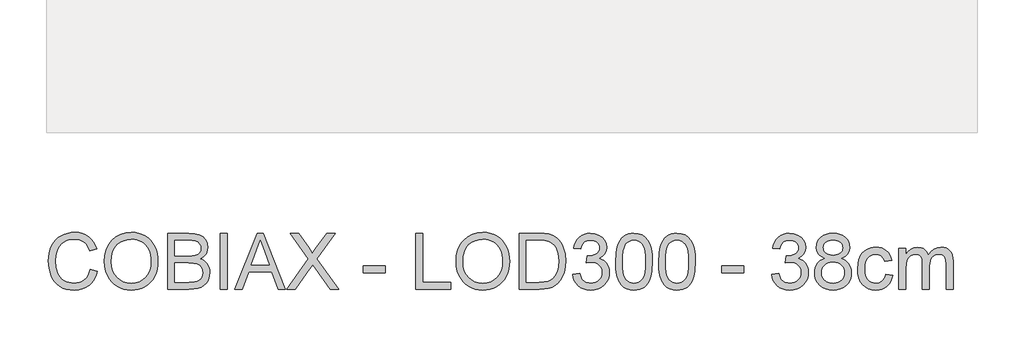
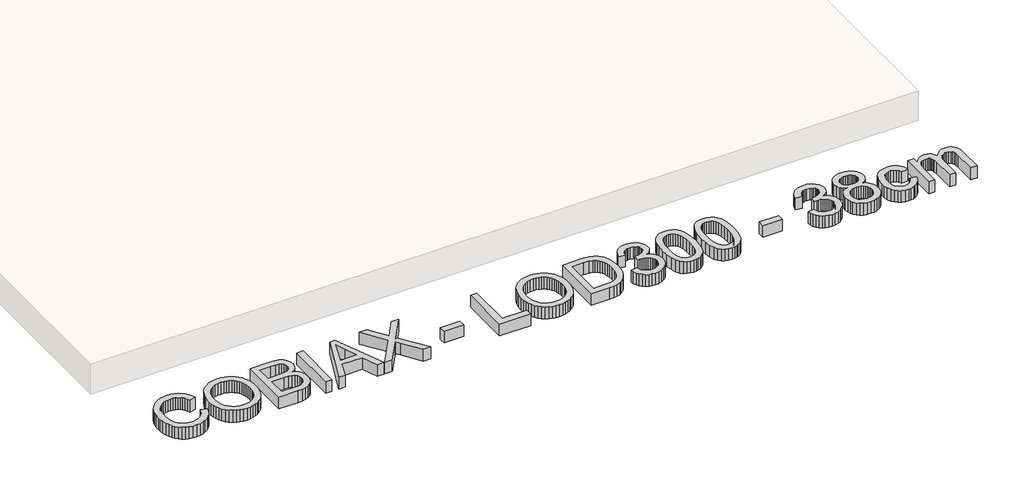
# One storey, part 11 of 18: 1 proxy.
"""IFC4 building model written with IfcOpenShell, lengths in millimetres."""

from ifc_helpers import new_model, si_unit, origin, origin_with_axes, place, context, project, spatial, polyline, outline, extrude, element, save

model = new_model("IFC4")

# Units and contexts
model_context = context("Model", 3, world=origin())
ifc_project = project(units=[si_unit("LENGTHUNIT", "METRE", prefix="MILLI")], contexts=[model_context])

# Site, building, storey
site = spatial("IfcSite", under=ifc_project)
building = spatial("IfcBuilding", under=site)
storey = spatial("IfcBuildingStorey", under=building, Name="COBIAX Slabs", Elevation=0.0)

# Proxy
placement = place(None, origin())
element("IfcBuildingElementProxy", 1, Name="600mm Arial", ObjectType="600mm Arial", at=placement, inside=storey, context=model_context, shape_type="SweptSolid", body=[
    extrude(outline(polyline([(9798.2153953, -22620.9127725), (9873.5576279, -22640.3369419), (9858.64921, -22687.1913125), (9838.7927794, -22728.13198), (9813.9883358, -22763.1589445), (9784.2358795, -22792.2722059), (9750.2067949, -22815.1590645), (9712.5724668, -22831.5068207), (9671.3328952, -22841.3154744), (9626.4880799, -22844.5850256), (9580.5442173, -22842.1110192), (9539.097712, -22834.6889999), (9502.1485641, -22822.3189678), (9469.6967736, -22805.0009229), (9441.2962836, -22782.9923826), (9416.5010371, -22756.5508642), (9395.3110342, -22725.6763677), (9377.7262748, -22690.3688932), (9363.9169044, -22652.155151), (9354.0530684, -22612.5618512), (9348.1347668, -22571.588994), (9346.1619996, -22529.2365793), (9348.3922842, -22483.7939559), (9355.083138, -22441.3495707), (9366.234561, -22401.9034238), (9381.8465531, -22365.4555151), (9401.5696266, -22332.6082514), (9425.0542935, -22303.9640396), (9452.3005538, -22279.5228795), (9483.3084074, -22259.2847713), (9517.0247923, -22243.4152617), (9552.3966461, -22232.0798977), (9589.4239689, -22225.2786793), (9628.1067607, -22223.0116065), (9671.1995379, -22225.9454655), (9710.7146627, -22234.7470422), (9746.6521351, -22249.4163368), (9779.0119551, -22269.9533491), (9807.2606938, -22295.8154534), (9830.8649224, -22326.4600236), (9849.8246407, -22361.8870597), (9864.1398488, -22402.0965618), (9788.7976162, -22420.0492032), (9776.9334219, -22390.420907), (9762.6779946, -22365.1060272), (9746.0313343, -22344.1045638), (9726.993441, -22327.4165168), (9705.4539502, -22314.7015953), (9681.3024972, -22305.6195086), (9654.5390821, -22300.1702565), (9625.1637048, -22298.3538392), (9591.3645465, -22300.3679931), (9560.4532618, -22306.4104549), (9532.4298508, -22316.4812245), (9507.2943135, -22330.5803019), (9485.3639481, -22348.0730908), (9466.9560527, -22368.3249946), (9452.0706275, -22391.3360134), (9440.7076724, -22417.1061472), (9426.3050923, -22472.2516583), (9421.5042322, -22529.0894265), (9427.1880091, -22598.6927), (9434.2927301, -22629.9626696), (9444.2393395, -22658.8781944), (9457.1887858, -22684.8644589), (9473.3020171, -22707.3466473), (9492.5790337, -22726.3247597), (9515.0198354, -22741.7987961), (9539.5345719, -22753.8055448), (9565.0333926, -22762.3817938), (9591.5162978, -22767.5275432), (9618.9832872, -22769.242793), (9651.7385804, -22766.9067423), (9681.8727143, -22759.8985903), (9709.385689, -22748.218337), (9734.2775045, -22731.8659823), (9755.9595496, -22710.9151027), (9773.8432131, -22685.4392745), (9787.928495, -22655.4384978), (9798.2153953, -22620.9127725)])), origin_with_axes(), (0.0, 0.0, 1.0), 150.0),
    extrude(outline(polyline([(9948.8998605, -22541.7445672), (9953.9214497, -22471.0468447), (9968.9862175, -22408.4609203), (9994.0941636, -22353.9867939), (10010.4143286, -22329.7916549), (10029.2452883, -22307.6244654), (10072.3334669, -22270.6063397), (10121.2525753, -22244.1648213), (10176.0026132, -22228.2999102), (10236.5835807, -22223.0116065), (10277.1333737, -22225.49481), (10315.6414215, -22232.9444204), (10352.1077243, -22245.3604378), (10386.532282, -22262.742862), (10417.9494044, -22284.5674614), (10445.3934012, -22310.310004), (10468.8642725, -22339.9704899), (10488.3620182, -22373.548919), (10503.6843033, -22410.2819362), (10514.6287927, -22449.4061864), (10521.1954863, -22490.9216695), (10523.3843842, -22534.8283857), (10521.0805232, -22579.3145159), (10514.1689402, -22621.3910191), (10502.6496352, -22661.0578953), (10486.5226083, -22698.3151443), (10466.1695369, -22732.178682), (10441.9720986, -22761.6644239), (10413.9302936, -22786.7723701), (10382.0441216, -22807.5025205), (10347.5689802, -22823.7261165), (10311.7602665, -22835.3143993), (10274.6179805, -22842.267369), (10236.1421223, -22844.5850256), (10194.8841566, -22842.0236472), (10155.870271, -22834.339512), (10119.1004656, -22821.5326201), (10084.5747403, -22803.6029713), (10053.1944061, -22781.2449431), (10025.8607739, -22755.1529126), (10002.5738436, -22725.3268798), (9983.3336153, -22691.7668448), (9968.2688476, -22655.8201753), (9957.5082992, -22618.8342393), (9951.0519702, -22580.8090365), (9948.8998605, -22541.7445672)]), holes=[polyline([(10024.2420931, -22542.4803312), (10028.0082851, -22592.4295091), (10039.3068608, -22636.7684865), (10058.1378205, -22675.4972636), (10084.5011639, -22708.6158402), (10116.5482842, -22735.140132), (10152.4305743, -22754.0860548), (10192.1480343, -22765.4536084), (10235.700664, -22769.242793), (10279.9982547, -22765.4168202), (10320.1847641, -22753.938902), (10356.2601923, -22734.8090382), (10388.2245392, -22708.027229), (10414.3947446, -22674.2096766), (10433.0877485, -22633.9725834), (10444.3035508, -22587.3159493), (10448.0421516, -22534.2397745), (10446.4418649, -22499.7600345), (10441.6410049, -22467.5427687), (10433.6395715, -22437.5879773), (10422.4375647, -22409.8956601), (10408.1591448, -22384.8291007), (10390.9284718, -22362.7515824), (10370.7455459, -22343.6631054), (10347.6103669, -22327.5636696), (10322.2403048, -22314.7843688), (10295.3527295, -22305.6562968), (10266.9476409, -22300.1794536), (10237.0250391, -22298.3538392), (10194.9853241, -22301.8717107), (10155.9806356, -22312.4253255), (10120.0109735, -22330.0146834), (10087.0763379, -22354.6397844), (10059.5863558, -22387.4870481), (10039.9506543, -22429.7428937), (10028.1692334, -22481.4073214), (10024.2420931, -22542.4803312)])]), origin_with_axes(), (0.0, 0.0, 1.0), 150.0),
    extrude(outline(polyline([(10626.979954, -22835.1672465), (10626.979954, -22232.4293856), (10856.9797774, -22232.4293856), (10920.2370865, -22236.8623637), (10969.6252443, -22250.1612978), (10989.7024042, -22260.2182718), (11007.4803016, -22272.6572818), (11022.9589366, -22287.4783277), (11036.1383091, -22304.6814095), (11054.1829209, -22342.3525258), (11060.1977915, -22381.7894757), (11055.1394141, -22418.0810345), (11039.9642818, -22452.2020895), (11014.56203, -22482.0557135), (10978.8222942, -22505.5449788), (11001.562, -22515.2386694), (11021.5149998, -22527.8386278), (11038.6812934, -22543.3448538), (11053.0608808, -22561.7573477), (11064.423836, -22582.5150893), (11072.5402325, -22605.0570585), (11077.4100704, -22629.3832555), (11079.0333497, -22655.4936801), (11074.6003717, -22697.524198), (11061.3014375, -22736.5012954), (11041.4542039, -22769.6474632), (11017.3763273, -22794.1851923), (10987.8905854, -22811.9538926), (10951.8197558, -22824.7929743), (10907.986616, -22832.5736785), (10855.2139438, -22835.1672465), (10626.979954, -22835.1672465)]), holes=[polyline([(10702.3221866, -22477.2916416), (10839.9100528, -22477.2916416), (10888.0290178, -22475.6729608), (10920.2554806, -22470.8169185), (10948.3800591, -22459.6516999), (10968.5951747, -22442.9314633), (10980.7904629, -22420.9137259), (10984.8555589, -22393.8560051), (10981.0663744, -22367.5892307), (10969.6988207, -22344.7069706), (10951.2679328, -22326.8462997), (10926.2887453, -22315.6442929), (10887.9554414, -22309.7397869), (10829.4622042, -22307.7716182), (10702.3221866, -22307.7716182), (10702.3221866, -22477.2916416)]), polyline([(10702.3221866, -22759.8250139), (10856.8326246, -22759.8250139), (10912.7506879, -22756.8819579), (10938.7047626, -22750.3520525), (10960.0603125, -22740.474421), (10977.4243426, -22726.3293582), (10991.4038584, -22706.9971594), (11000.6193024, -22683.3423471), (11003.6911171, -22656.2294441), (11000.0858735, -22624.7387453), (10989.2701429, -22597.6626304), (10970.3794024, -22576.4910216), (10942.5491295, -22562.7138409), (10903.1305737, -22555.1538659), (10849.4749847, -22552.6338742), (10702.3221866, -22552.6338742), (10702.3221866, -22759.8250139)])]), origin_with_axes(), (0.0, 0.0, 1.0), 150.0),
    extrude(outline(polyline([(11192.0466986, -22835.1672465), (11192.0466986, -22232.4293856), (11267.3889312, -22232.4293856), (11267.3889312, -22835.1672465), (11192.0466986, -22835.1672465)])), origin_with_axes(), (0.0, 0.0, 1.0), 150.0),
    extrude(outline(polyline([(11347.8815118, -22835.1672465), (11588.4763366, -22232.4293856), (11652.6349566, -22232.4293856), (11893.2297814, -22835.1672465), (11813.6201177, -22835.1672465), (11744.6054554, -22646.811665), (11496.358685, -22646.811665), (11427.4911755, -22835.1672465), (11347.8815118, -22835.1672465)]), holes=[polyline([(11524.0234111, -22571.4694324), (11717.0878821, -22571.4694324), (11662.7884996, -22423.2865647), (11620.5556466, -22307.7716182), (11583.0316831, -22410.3371185), (11524.0234111, -22571.4694324)])]), origin_with_axes(), (0.0, 0.0, 1.0), 150.0),
    extrude(outline(polyline([(11907.7979084, -22835.1672465), (12140.1521766, -22506.7222012), (11945.4690247, -22232.4293856), (12035.8208428, -22232.4293856), (12145.4496773, -22386.7926708), (12171.6060872, -22425.8985269), (12182.3850296, -22446.9781652), (12225.6479523, -22385.7626012), (12334.0995644, -22232.4293856), (12425.7757576, -22232.4293856), (12231.0926058, -22507.605118), (12463.4468739, -22835.1672465), (12373.0950559, -22835.1672465), (12218.2903124, -22616.7924942), (12186.0638496, -22571.4694324), (12150.6000252, -22621.2070781), (11999.4741016, -22835.1672465), (11907.7979084, -22835.1672465)])), origin_with_axes(), (0.0, 0.0, 1.0), 150.0),
    extrude(outline(polyline([(12727.1446881, -22656.2294441), (12727.1446881, -22580.8872115), (12962.589165, -22580.8872115), (12962.589165, -22656.2294441), (12727.1446881, -22656.2294441)])), origin_with_axes(), (0.0, 0.0, 1.0), 150.0),
    extrude(outline(polyline([(13292.2114327, -22835.1672465), (13292.2114327, -22232.4293856), (13367.5536653, -22232.4293856), (13367.5536653, -22759.8250139), (13668.9225957, -22759.8250139), (13668.9225957, -22835.1672465), (13292.2114327, -22835.1672465)])), origin_with_axes(), (0.0, 0.0, 1.0), 150.0),
    extrude(outline(polyline([(13725.4292702, -22541.7445672), (13730.4508594, -22471.0468447), (13745.5156271, -22408.4609203), (13770.6235733, -22353.9867939), (13786.9437383, -22329.7916549), (13805.7746979, -22307.6244654), (13848.8628766, -22270.6063397), (13897.7819849, -22244.1648213), (13952.5320229, -22228.2999102), (14013.1129904, -22223.0116065), (14053.6627833, -22225.49481), (14092.1708312, -22232.9444204), (14128.637134, -22245.3604378), (14163.0616917, -22262.742862), (14194.4788141, -22284.5674614), (14221.9228109, -22310.310004), (14245.3936822, -22339.9704899), (14264.8914279, -22373.548919), (14280.213713, -22410.2819362), (14291.1582024, -22449.4061864), (14297.724896, -22490.9216695), (14299.9137939, -22534.8283857), (14297.6099329, -22579.3145159), (14290.6983499, -22621.3910191), (14279.1790449, -22661.0578953), (14263.052018, -22698.3151443), (14242.6989466, -22732.178682), (14218.5015083, -22761.6644239), (14190.4597033, -22786.7723701), (14158.5735313, -22807.5025205), (14124.0983898, -22823.7261165), (14088.2896761, -22835.3143993), (14051.1473902, -22842.267369), (14012.671532, -22844.5850256), (13971.4135663, -22842.0236472), (13932.3996807, -22834.339512), (13895.6298753, -22821.5326201), (13861.10415, -22803.6029713), (13829.7238158, -22781.2449431), (13802.3901836, -22755.1529126), (13779.1032533, -22725.3268798), (13759.8630249, -22691.7668448), (13744.7982572, -22655.8201753), (13734.0377089, -22618.8342393), (13727.5813799, -22580.8090365), (13725.4292702, -22541.7445672)]), holes=[polyline([(13800.7715028, -22542.4803312), (13804.5376947, -22592.4295091), (13815.8362705, -22636.7684865), (13834.6672301, -22675.4972636), (13861.0305736, -22708.6158402), (13893.0776939, -22735.140132), (13928.959984, -22754.0860548), (13968.6774439, -22765.4536084), (14012.2300736, -22769.242793), (14056.5276644, -22765.4168202), (14096.7141738, -22753.938902), (14132.789602, -22734.8090382), (14164.7539488, -22708.027229), (14190.9241543, -22674.2096766), (14209.6171582, -22633.9725834), (14220.8329605, -22587.3159493), (14224.5715613, -22534.2397745), (14222.9712746, -22499.7600345), (14218.1704145, -22467.5427687), (14210.1689811, -22437.5879773), (14198.9669744, -22409.8956601), (14184.6885545, -22384.8291007), (14167.4578815, -22362.7515824), (14147.2749555, -22343.6631054), (14124.1397766, -22327.5636696), (14098.7697145, -22314.7843688), (14071.8821392, -22305.6562968), (14043.4770506, -22300.1794536), (14013.5544488, -22298.3538392), (13971.5147338, -22301.8717107), (13932.5100453, -22312.4253255), (13896.5403832, -22330.0146834), (13863.6057476, -22354.6397844), (13836.1157655, -22387.4870481), (13816.480064, -22429.7428937), (13804.6986431, -22481.4073214), (13800.7715028, -22542.4803312)])]), origin_with_axes(), (0.0, 0.0, 1.0), 150.0),
    extrude(outline(polyline([(14403.5093637, -22835.1672465), (14403.5093637, -22232.4293856), (14611.4362674, -22232.4293856), (14673.5715364, -22234.5998894), (14719.0049628, -22241.1114007), (14767.0503513, -22257.8500315), (14807.5909472, -22284.2271705), (14829.9305814, -22305.7850555), (14849.2719773, -22330.1388435), (14865.6151349, -22357.2885348), (14878.9600543, -22387.2341292), (14889.3251295, -22419.6997153), (14896.7287546, -22454.4093815), (14902.6516548, -22530.5609545), (14898.641741, -22595.2530034), (14886.6119998, -22652.1827421), (14868.2914764, -22700.651195), (14845.4092163, -22739.9593862), (14819.0688655, -22770.9902325), (14790.3740698, -22794.6266507), (14757.4302372, -22812.1562277), (14718.3427752, -22824.8665507), (14673.0381075, -22832.5920726), (14621.4426577, -22835.1672465), (14403.5093637, -22835.1672465)]), holes=[polyline([(14478.8515963, -22759.8250139), (14612.1720314, -22759.8250139), (14667.3175425, -22757.1026871), (14709.1457253, -22748.9357069), (14740.7100005, -22735.8023196), (14765.0637886, -22718.1807721), (14791.2385925, -22685.5680332), (14810.9018852, -22643.3535742), (14823.2075379, -22591.3534542), (14827.3094222, -22529.3837321), (14825.2998668, -22485.6425629), (14819.2712006, -22447.2724708), (14809.2234236, -22414.2734558), (14795.1565358, -22386.645518), (14778.2109714, -22363.7632579), (14759.5271645, -22345.0012761), (14739.1051153, -22330.3595727), (14716.9448236, -22319.8381477), (14673.6083246, -22310.7882506), (14610.1118922, -22307.7716182), (14478.8515963, -22307.7716182), (14478.8515963, -22759.8250139)])]), origin_with_axes(), (0.0, 0.0, 1.0), 150.0),
    extrude(outline(polyline([(14977.9938874, -22675.0650022), (15053.33612, -22665.6472231), (15070.2035095, -22712.9936359), (15081.5756616, -22730.900292), (15094.9067854, -22744.9625813), (15110.5003835, -22755.5851739), (15128.6599585, -22763.1727401), (15149.3855104, -22767.7252798), (15172.6770392, -22769.242793), (15199.9738833, -22767.1550627), (15224.3276713, -22760.8918717), (15245.7384035, -22750.4532201), (15264.2060796, -22735.8391078), (15279.0777093, -22718.1439839), (15289.7003019, -22698.4622971), (15296.0738575, -22676.7940476), (15298.198376, -22653.1392353), (15296.0922516, -22630.6110616), (15289.7738783, -22610.115436), (15279.2432562, -22591.6523583), (15264.5003852, -22575.2218287), (15246.5109557, -22561.7343551), (15226.2406577, -22552.1004453), (15203.6894914, -22546.3200995), (15178.8574567, -22544.3933175), (15155.0554917, -22546.4534567), (15126.0296022, -22552.6338742), (15134.4173117, -22477.2916416), (15146.4838412, -22478.1745584), (15191.622962, -22472.7666931), (15231.9796168, -22456.5430971), (15248.5894889, -22444.2742325), (15260.4536833, -22429.0991002), (15267.5721999, -22411.0177002), (15269.9450388, -22390.0300324), (15268.2251904, -22372.9924975), (15263.0656454, -22357.4908699), (15254.4664038, -22343.5251496), (15242.4274655, -22331.0953367), (15227.6753975, -22320.8912099), (15210.9367667, -22313.6025479), (15171.4998168, -22307.7716182), (15150.8432428, -22309.2431462), (15131.9892906, -22313.6577302), (15114.9379601, -22321.0153701), (15099.6892514, -22331.3160659), (15086.6202435, -22344.5598178), (15076.1080155, -22360.7466255), (15068.1525673, -22379.8764893), (15062.7538991, -22401.949409), (14987.4116665, -22392.5316299), (14996.3420019, -22356.5619678), (15009.5949508, -22324.878131), (15027.1705131, -22297.4801194), (15049.0686888, -22274.3679331), (15074.5996993, -22256.0198186), (15103.0737657, -22242.9140225), (15134.4908881, -22235.0505448), (15168.8510665, -22232.4293856), (15216.2158734, -22237.5981277), (15259.7179193, -22253.1043538), (15296.3957542, -22277.5685064), (15323.2879281, -22309.6110282), (15339.7874355, -22346.5279864), (15345.2872714, -22385.6154484), (15340.063347, -22422.0357659), (15324.391574, -22455.0715691), (15298.4926816, -22483.2145417), (15262.5873988, -22504.9563677), (15287.695345, -22512.8106482), (15309.7498706, -22524.012655), (15328.7509757, -22538.5623879), (15344.6986602, -22556.459847), (15357.3170126, -22577.2635738), (15366.3301215, -22600.53211), (15371.7379868, -22626.2654556), (15373.5406086, -22654.4636105), (15369.935365, -22692.6865498), (15359.1196344, -22727.8928567), (15341.0934166, -22760.0825313), (15315.8567117, -22789.2555735), (15285.110974, -22813.4622088), (15250.5576576, -22830.7526626), (15212.1967626, -22841.1269348), (15170.0282889, -22844.5850256), (15131.9157142, -22841.6327726), (15097.1876538, -22832.7760136), (15065.8441078, -22818.0147485), (15037.8850762, -22797.3489774), (15014.4417961, -22771.9927109), (14996.6455045, -22743.1599595), (14984.4962016, -22710.8507233), (14977.9938874, -22675.0650022)])), origin_with_axes(), (0.0, 0.0, 1.0), 150.0),
    extrude(outline(polyline([(15439.4650621, -22538.6543584), (15445.0016862, -22442.1773052), (15451.9224662, -22401.2642288), (15461.6115582, -22365.2347859), (15474.0275756, -22333.7946709), (15489.1291315, -22306.6495782), (15506.9162259, -22283.7995077), (15527.388859, -22265.2444596), (15550.6160084, -22250.8878647), (15576.6666522, -22240.6331541), (15605.5407903, -22234.4803277), (15637.2384227, -22232.4293856), (15683.6651305, -22237.285428), (15725.235796, -22251.853555), (15760.0006445, -22275.5635496), (15786.0099016, -22307.8451946), (15805.6548001, -22348.4225787), (15821.3265731, -22397.0197903), (15831.5904808, -22458.731995), (15835.0117833, -22538.6543584), (15829.5303416, -22634.5795887), (15822.6785395, -22675.3547093), (15813.0860164, -22711.3381669), (15800.7665681, -22742.7920775), (15785.7339901, -22769.978557), (15767.9882823, -22792.8976053), (15747.5294449, -22811.5492224), (15724.2747043, -22826.0023863), (15698.141287, -22836.3260748), (15669.1291932, -22842.5202879), (15637.2384227, -22844.5850256), (15595.7413337, -22840.9981761), (15558.9531342, -22830.2376278), (15526.8738242, -22812.3033805), (15499.5034037, -22787.1954344), (15473.2366293, -22741.8079932), (15454.4746475, -22685.2553335), (15443.2174585, -22617.5374552), (15439.4650621, -22538.6543584)]), holes=[polyline([(15514.8072947, -22538.5072056), (15517.0145867, -22604.0039963), (15523.6364626, -22657.0203904), (15534.6729225, -22697.5563877), (15550.1239663, -22725.6119884), (15568.8123716, -22744.7004654), (15589.5609162, -22758.3350918), (15612.3695999, -22766.5158677), (15637.2384227, -22769.242793), (15662.1072456, -22766.5066706), (15684.9159293, -22758.2983036), (15705.6644738, -22744.6176919), (15724.3528792, -22725.4648356), (15739.803923, -22697.3632497), (15750.8403828, -22656.8364494), (15757.4622588, -22603.8844347), (15759.6695507, -22538.5072056), (15757.5358352, -22474.7440588), (15751.1346884, -22422.6611653), (15740.4661106, -22382.2585252), (15725.5301016, -22353.5361384), (15707.1543959, -22333.5141608), (15686.1667281, -22319.2127483), (15662.5670981, -22310.6319007), (15636.3555059, -22307.7716182), (15611.6154418, -22310.2916099), (15589.1930342, -22317.8515849), (15569.0882831, -22330.4515432), (15551.3011887, -22348.0914849), (15535.3351101, -22379.3614545), (15523.9307682, -22421.5207311), (15517.0881631, -22474.5693149), (15514.8072947, -22538.5072056)])]), origin_with_axes(), (0.0, 0.0, 1.0), 150.0),
    extrude(outline(polyline([(15900.9362369, -22538.6543584), (15906.4728609, -22442.1773052), (15913.3936409, -22401.2642288), (15923.082733, -22365.2347859), (15935.4987503, -22333.7946709), (15950.6003062, -22306.6495782), (15968.3874007, -22283.7995077), (15988.8600337, -22265.2444596), (16012.0871832, -22250.8878647), (16038.137827, -22240.6331541), (16067.0119651, -22234.4803277), (16098.7095975, -22232.4293856), (16145.1363053, -22237.285428), (16186.7069707, -22251.853555), (16221.4718193, -22275.5635496), (16247.4810763, -22307.8451946), (16267.1259749, -22348.4225787), (16282.7977479, -22397.0197903), (16293.0616555, -22458.731995), (16296.4829581, -22538.6543584), (16291.0015164, -22634.5795887), (16284.1497142, -22675.3547093), (16274.5571912, -22711.3381669), (16262.2377429, -22742.7920775), (16247.2051648, -22769.978557), (16229.4594571, -22792.8976053), (16209.0006196, -22811.5492224), (16185.745879, -22826.0023863), (16159.6124618, -22836.3260748), (16130.6003679, -22842.5202879), (16098.7095975, -22844.5850256), (16057.2125084, -22840.9981761), (16020.4243089, -22830.2376278), (15988.3449989, -22812.3033805), (15960.9745785, -22787.1954344), (15934.707804, -22741.8079932), (15915.9458223, -22685.2553335), (15904.6886332, -22617.5374552), (15900.9362369, -22538.6543584)]), holes=[polyline([(15976.2784695, -22538.5072056), (15978.4857615, -22604.0039963), (15985.1076374, -22657.0203904), (15996.1440972, -22697.5563877), (16011.595141, -22725.6119884), (16030.2835464, -22744.7004654), (16051.0320909, -22758.3350918), (16073.8407746, -22766.5158677), (16098.7095975, -22769.242793), (16123.5784204, -22766.5066706), (16146.3871041, -22758.2983036), (16167.1356486, -22744.6176919), (16185.8240539, -22725.4648356), (16201.2750977, -22697.3632497), (16212.3115576, -22656.8364494), (16218.9334335, -22603.8844347), (16221.1407255, -22538.5072056), (16219.0070099, -22474.7440588), (16212.6058632, -22422.6611653), (16201.9372853, -22382.2585252), (16187.0012763, -22353.5361384), (16168.6255707, -22333.5141608), (16147.6379028, -22319.2127483), (16124.0382729, -22310.6319007), (16097.8266807, -22307.7716182), (16073.0866165, -22310.2916099), (16050.6642089, -22317.8515849), (16030.5594579, -22330.4515432), (16012.7723634, -22348.0914849), (15996.8062848, -22379.3614545), (15985.401943, -22421.5207311), (15978.5593379, -22474.5693149), (15976.2784695, -22538.5072056)])]), origin_with_axes(), (0.0, 0.0, 1.0), 150.0),
    extrude(outline(polyline([(16579.0163304, -22656.2294441), (16579.0163304, -22580.8872115), (16814.4608073, -22580.8872115), (16814.4608073, -22656.2294441), (16579.0163304, -22656.2294441)])), origin_with_axes(), (0.0, 0.0, 1.0), 150.0),
    extrude(outline(polyline([(17115.8297378, -22675.0650022), (17191.1719704, -22665.6472231), (17208.0393598, -22712.9936359), (17219.411512, -22730.900292), (17232.7426358, -22744.9625813), (17248.3362339, -22755.5851739), (17266.4958089, -22763.1727401), (17287.2213608, -22767.7252798), (17310.5128896, -22769.242793), (17337.8097336, -22767.1550627), (17362.1635217, -22760.8918717), (17383.5742538, -22750.4532201), (17402.04193, -22735.8391078), (17416.9135597, -22718.1439839), (17427.5361523, -22698.4622971), (17433.9097078, -22676.7940476), (17436.0342264, -22653.1392353), (17433.9281019, -22630.6110616), (17427.6097287, -22610.115436), (17417.0791066, -22591.6523583), (17402.3362356, -22575.2218287), (17384.346806, -22561.7343551), (17364.0765081, -22552.1004453), (17341.5253418, -22546.3200995), (17316.6933071, -22544.3933175), (17292.891342, -22546.4534567), (17263.8654526, -22552.6338742), (17272.2531621, -22477.2916416), (17284.3196915, -22478.1745584), (17329.4588123, -22472.7666931), (17369.8154672, -22456.5430971), (17386.4253393, -22444.2742325), (17398.2895336, -22429.0991002), (17405.4080503, -22411.0177002), (17407.7808891, -22390.0300324), (17406.0610408, -22372.9924975), (17400.9014958, -22357.4908699), (17392.3022542, -22343.5251496), (17380.2633159, -22331.0953367), (17365.5112479, -22320.8912099), (17348.7726171, -22313.6025479), (17309.3356672, -22307.7716182), (17288.6790932, -22309.2431462), (17269.8251409, -22313.6577302), (17252.7738105, -22321.0153701), (17237.5251018, -22331.3160659), (17224.4560939, -22344.5598178), (17213.9438659, -22360.7466255), (17205.9884177, -22379.8764893), (17200.5897494, -22401.949409), (17125.2475168, -22392.5316299), (17134.1778523, -22356.5619678), (17147.4308011, -22324.878131), (17165.0063635, -22297.4801194), (17186.9045392, -22274.3679331), (17212.4355497, -22256.0198186), (17240.9096161, -22242.9140225), (17272.3267385, -22235.0505448), (17306.6869168, -22232.4293856), (17354.0517237, -22237.5981277), (17397.5537697, -22253.1043538), (17434.2316046, -22277.5685064), (17461.1237784, -22309.6110282), (17477.6232859, -22346.5279864), (17483.1231217, -22385.6154484), (17477.8991974, -22422.0357659), (17462.2274244, -22455.0715691), (17436.3285319, -22483.2145417), (17400.4232492, -22504.9563677), (17425.5311954, -22512.8106482), (17447.585721, -22524.012655), (17466.5868261, -22538.5623879), (17482.5345105, -22556.459847), (17495.152863, -22577.2635738), (17504.1659719, -22600.53211), (17509.5738372, -22626.2654556), (17511.376459, -22654.4636105), (17507.7712154, -22692.6865498), (17496.9554848, -22727.8928567), (17478.929267, -22760.0825313), (17453.6925621, -22789.2555735), (17422.9468244, -22813.4622088), (17388.393508, -22830.7526626), (17350.0326129, -22841.1269348), (17307.8641392, -22844.5850256), (17269.7515645, -22841.6327726), (17235.0235042, -22832.7760136), (17203.6799582, -22818.0147485), (17175.7209266, -22797.3489774), (17152.2776464, -22771.9927109), (17134.4813549, -22743.1599595), (17122.332052, -22710.8507233), (17115.8297378, -22675.0650022)])), origin_with_axes(), (0.0, 0.0, 1.0), 150.0),
    extrude(outline(polyline([(17687.0768999, -22503.1905341), (17646.7386391, -22483.3249063), (17631.0806617, -22470.7433421), (17618.4301196, -22456.3959443), (17601.7098829, -22422.9554709), (17596.1364707, -22383.5553092), (17599.1714971, -22352.8279656), (17608.2765765, -22324.6574018), (17623.4517088, -22299.0436179), (17644.696894, -22275.9866139), (17670.9912596, -22256.9303265), (17701.3139331, -22243.3186927), (17735.6649144, -22235.1517124), (17774.0442035, -22232.4293856), (17812.6074337, -22235.2160917), (17847.2159324, -22243.5762101), (17877.8696996, -22257.5097406), (17904.5687354, -22277.0166834), (17926.2001967, -22300.5243429), (17941.6512405, -22326.4600236), (17950.9218668, -22354.8237254), (17954.0120756, -22385.6154484), (17948.5122397, -22423.7464172), (17932.0127322, -22456.6166735), (17919.5921164, -22470.8675023), (17904.3296121, -22483.3800886), (17865.2789383, -22503.1905341), (17890.0419951, -22513.7257547), (17911.6504638, -22527.0844697), (17930.1043444, -22543.2666789), (17945.4036369, -22562.2723825), (17957.4103855, -22583.6785161), (17965.9866345, -22607.0620154), (17971.1323839, -22632.4228805), (17972.8476337, -22659.7611112), (17969.4447253, -22697.340257), (17959.2359999, -22731.7924059), (17942.2214576, -22763.1175578), (17918.4010984, -22791.3157127), (17889.0257211, -22814.6210371), (17855.3461245, -22831.2676974), (17817.3623085, -22841.2556935), (17775.0742731, -22844.5850256), (17732.7862378, -22841.241898), (17694.8024218, -22831.2125151), (17661.1228251, -22814.4968769), (17631.7474478, -22791.0949835), (17607.9270886, -22762.699092), (17590.9125463, -22731.0014596), (17580.703821, -22696.0020863), (17577.3009125, -22657.700972), (17579.0851402, -22629.116541), (17584.4378232, -22602.9601312), (17593.3589616, -22579.2317425), (17605.8485553, -22557.931375), (17621.6306929, -22539.4453047), (17640.4294629, -22524.1598078), (17662.2448652, -22512.0748843), (17687.0768999, -22503.1905341)]), holes=[polyline([(17671.4787033, -22385.7626012), (17673.1479678, -22403.0346609), (17678.1557615, -22418.6512516), (17686.5020842, -22432.6123733), (17698.1869361, -22444.918026), (17713.0631643, -22454.9612045), (17730.983616, -22462.1349034), (17751.9482912, -22466.4391228), (17775.9571899, -22467.8738625), (17799.3728789, -22466.4483198), (17819.8823001, -22462.1716916), (17837.4854536, -22455.043978), (17852.1823393, -22445.0651788), (17863.7706221, -22433.0170435), (17872.047967, -22419.6813212), (17877.014374, -22405.0580119), (17878.6698429, -22389.1471156), (17876.9591917, -22372.6154184), (17871.8272378, -22357.4540817), (17863.2739815, -22343.6631054), (17851.2994225, -22331.2424895), (17836.271443, -22320.9739833), (17818.5579249, -22313.6393361), (17798.1588683, -22309.2385477), (17775.0742731, -22307.7716182), (17751.8103354, -22309.206358), (17731.3147098, -22313.5105774), (17713.5873961, -22320.6842763), (17698.6283945, -22330.7274547), (17686.7504046, -22342.7755901), (17678.2661261, -22355.9641596), (17673.175559, -22370.2931633), (17671.4787033, -22385.7626012)]), polyline([(17652.6431451, -22655.0522217), (17655.7885362, -22683.875776), (17665.2247093, -22711.7796253), (17682.6439218, -22736.1150193), (17709.7384308, -22754.2332076), (17742.1856227, -22765.4903966), (17775.6628843, -22769.242793), (17802.904546, -22767.2700258), (17826.9456344, -22761.3517242), (17847.7861495, -22751.4878882), (17865.4260911, -22737.6785178), (17879.4607892, -22720.8249239), (17889.4855736, -22701.8284174), (17895.5004442, -22680.6889982), (17897.5054011, -22657.4066665), (17895.4360649, -22633.7518542), (17889.2280562, -22612.2307574), (17878.8813751, -22592.8433763), (17864.3960215, -22575.5897107), (17846.2778333, -22561.4262539), (17825.0326481, -22551.309499), (17800.6604659, -22545.2394461), (17773.1612867, -22543.2160952), (17746.3196967, -22545.211855), (17722.5959065, -22551.1991344), (17701.9899162, -22561.1779336), (17684.5017259, -22575.1482523), (17670.5635968, -22592.1168094), (17660.6077903, -22611.0903233), (17654.6343064, -22632.068794), (17652.6431451, -22655.0522217)])]), origin_with_axes(), (0.0, 0.0, 1.0), 150.0),
    extrude(outline(polyline([(18340.1410177, -22675.0650022), (18415.4832503, -22684.4827813), (18407.2886789, -22720.0339776), (18394.4771884, -22751.4924867), (18377.0487789, -22778.8583086), (18355.0034503, -22802.1314434), (18329.2701047, -22820.7048856), (18300.7776442, -22833.97163), (18269.5260687, -22841.9316767), (18235.5153783, -22844.5850256), (18193.2595326, -22840.883213), (18155.3722856, -22829.7777753), (18121.8536373, -22811.2687124), (18092.7035877, -22785.3560244), (18069.1085563, -22752.5271548), (18052.2549624, -22713.2695474), (18042.142806, -22667.5832021), (18038.7720873, -22615.468119), (18044.5294405, -22548.4216254), (18051.726132, -22518.2507033), (18061.8015001, -22490.3146642), (18074.8245228, -22465.1745284), (18090.8641778, -22443.3913158), (18109.9204651, -22424.9650263), (18131.9933848, -22409.8956601), (18156.085057, -22398.1786186), (18181.1976017, -22389.8093032), (18207.3310189, -22384.7877139), (18234.4853087, -22383.1138508), (18267.9119865, -22385.4131133), (18298.1472879, -22392.3109007), (18325.1912131, -22403.8072131), (18349.043762, -22419.9020504), (18369.3002643, -22440.2275306), (18385.55605, -22464.4157718), (18397.811119, -22492.4667739), (18406.0654712, -22524.380537), (18330.7232386, -22533.7983161), (18317.0564225, -22500.9280598), (18295.7744491, -22477.365218), (18268.0545407, -22463.1833671), (18235.0739199, -22458.4560835), (18209.4739315, -22460.7829371), (18186.3847378, -22467.7634979), (18165.8063387, -22479.397766), (18147.7387342, -22495.6857414), (18133.0280529, -22517.004503), (18122.5204235, -22543.7311299), (18116.2158458, -22575.8656222), (18114.1143199, -22613.4079798), (18116.1698605, -22651.515956), (18122.3364825, -22684.0229288), (18132.6141857, -22710.9288982), (18147.0029702, -22732.2338643), (18164.7118898, -22748.4252706), (18184.949998, -22759.9905608), (18207.717295, -22766.9297349), (18233.0137807, -22769.242793), (18272.0276663, -22763.4670457), (18288.8996543, -22756.2473615), (18304.0150058, -22746.1398037), (18316.9506564, -22733.0340076), (18327.283542, -22716.8196087), (18335.0136624, -22697.4966069), (18340.1410177, -22675.0650022)])), origin_with_axes(), (0.0, 0.0, 1.0), 150.0),
    extrude(outline(polyline([(18481.4077038, -22835.1672465), (18481.4077038, -22392.5316299), (18556.7499365, -22392.5316299), (18556.7499365, -22465.372265), (18579.4114674, -22431.9133975), (18608.5477214, -22405.7018054), (18643.1654171, -22388.7608395), (18682.2712732, -22383.1138508), (18724.1730325, -22388.8712041), (18742.0061122, -22396.0678956), (18757.7606586, -22406.1432637), (18782.8502107, -22433.7895957), (18799.2577477, -22470.6697657), (18826.7201386, -22432.364053), (18858.0452905, -22405.0028296), (18893.2332033, -22388.5860955), (18932.2838771, -22383.1138508), (18962.4456022, -22385.3901207), (18988.9193103, -22392.2189302), (19011.7050014, -22403.6002795), (19030.8026754, -22419.5341684), (19045.8996328, -22440.204538), (19056.6831738, -22465.7953293), (19063.1532984, -22496.3065422), (19065.3100066, -22531.7381769), (19065.3100066, -22835.1672465), (18989.967774, -22835.1672465), (18989.967774, -22564.1117925), (18988.2203345, -22526.5326467), (18982.9780161, -22501.2039713), (18973.1555668, -22483.8583352), (18957.6677348, -22470.2283073), (18937.7469248, -22461.3991394), (18914.6255414, -22458.4560835), (18893.2745901, -22460.3414787), (18873.809034, -22465.9976644), (18856.2288732, -22475.4246405), (18840.5341075, -22488.6224071), (18827.626048, -22505.9772402), (18818.4060055, -22527.875416), (18812.87398, -22554.3169344), (18811.0299715, -22585.3017954), (18811.0299715, -22835.1672465), (18735.6877389, -22835.1672465), (18735.6877389, -22555.724083), (18731.3283373, -22513.1233479), (18725.8790852, -22496.4031113), (18718.2501323, -22482.7362951), (18708.137976, -22472.1137025), (18695.2391135, -22464.5261364), (18679.553545, -22459.9735967), (18661.0812703, -22458.4560835), (18632.0553809, -22462.5027854), (18605.3103598, -22474.6428912), (18583.2374401, -22494.5820954), (18568.2278547, -22522.0260922), (18559.619416, -22560.1018787), (18556.7499365, -22611.9364518), (18556.7499365, -22835.1672465), (18481.4077038, -22835.1672465)])), origin_with_axes(), (0.0, 0.0, 1.0), 150.0),
])

save(model, "model.ifc")
